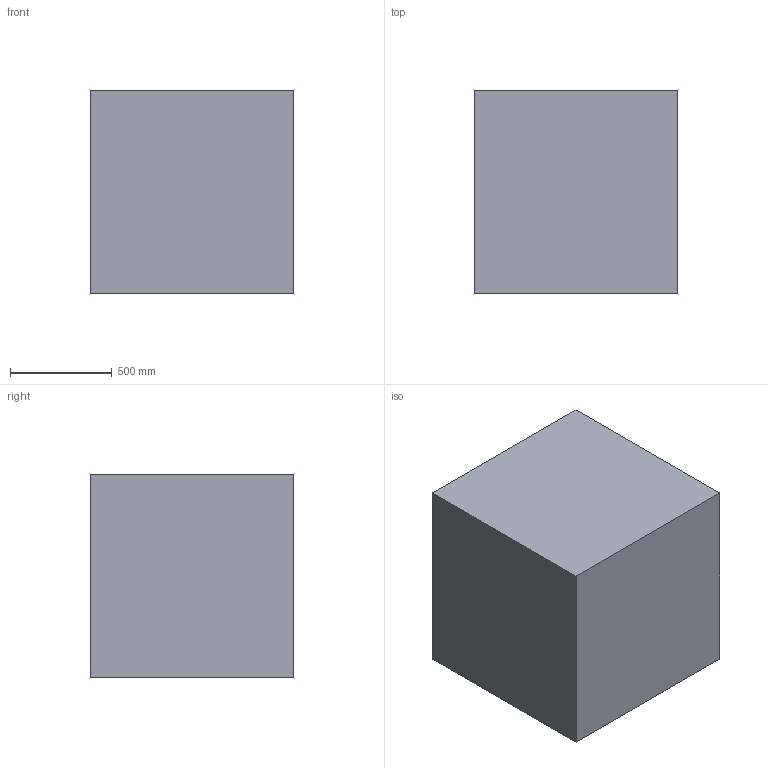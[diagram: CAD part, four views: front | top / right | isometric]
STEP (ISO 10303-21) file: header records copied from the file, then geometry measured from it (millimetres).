
FILE_DESCRIPTION((''),'6.6 Build Date : Nov 12 2018');
FILE_NAME('C:\temp\block.stp','Mon Nov 26 17:05:30 2018',('PATRAN'),(''),'6.6 Build Date : Nov 12 2018','MSC.Patran 2004','');
FILE_SCHEMA(('CONFIG_CONTROL_DESIGN'));
Length unit declared in the file: metre
Products named in the file (1): 1111
Bounding box: 1000 x 1000 x 1000 mm (x, y, z)
Volume: 1000000000 mm3; surface area: 6000000 mm2
Topology: 1 solids, 1 shells, 6 faces, 12 edges, 8 vertices
Faces by surface type: bspline 6
Entity records: 275 total; most frequent: CARTESIAN_POINT 117, ORIENTED_EDGE 24, DIRECTION 14, VECTOR 12, LINE 12, EDGE_CURVE 12, VERTEX_POINT 8, EDGE_LOOP 6
